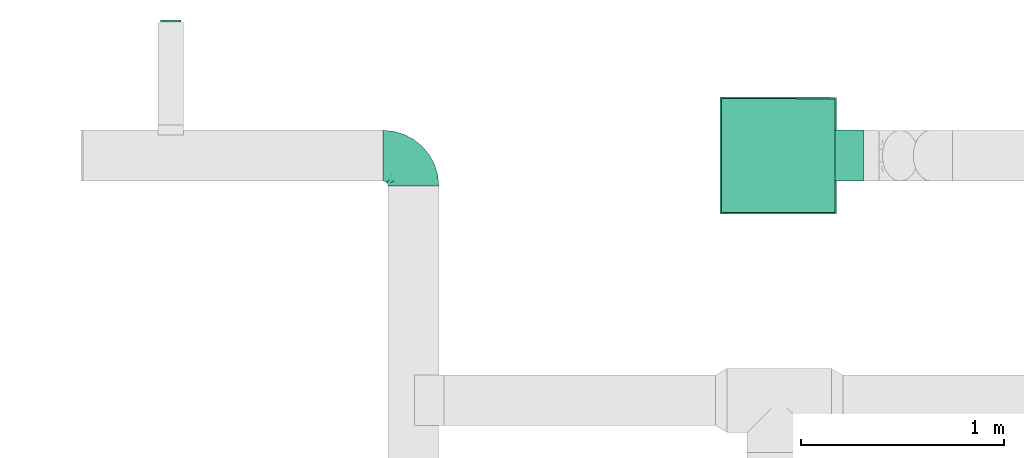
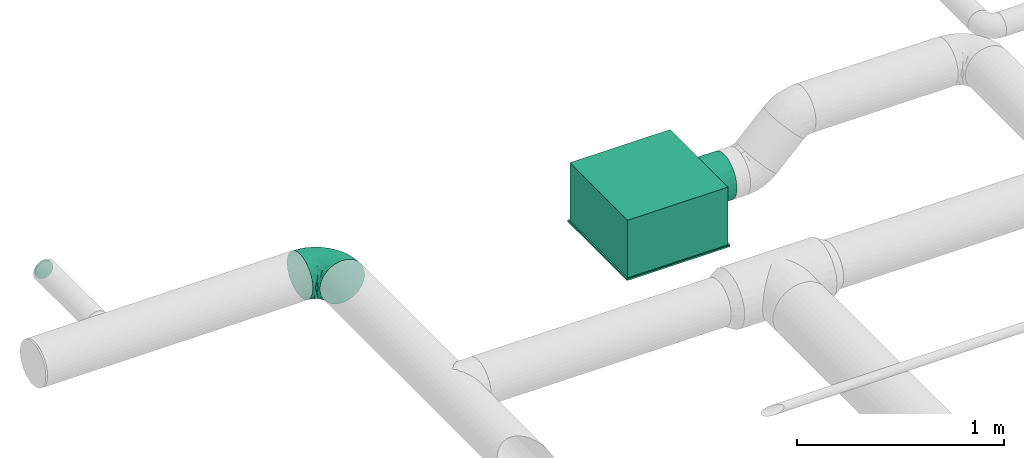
# One storey, part 37 of 63: 2 flow terminals, 1 flow fitting.
"""IFC2X3 building model written with IfcOpenShell, lengths in millimetres."""

from ifc_helpers import new_model, entity, si_unit, converted_unit, derived_unit, direction, frame, origin_with_axes, place, context, subcontext, project, spatial, open_shell, surface_model, source, transform, mapped, type_object, element, save


model = new_model("IFC2X3")

# Units and contexts
model_context = context("Model", 3, precision=0.01, world=frame((0.0, 4.29681676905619e-09, 0.0)), true_north=direction((4.01073788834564e-13, 1.0)))
plan_context = context("Plan", 3, precision=0.01, world=frame((0.0, 4.29681676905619e-09, 0.0)), true_north=direction((4.01073788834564e-13, 1.0)))
body_context = subcontext(model_context, "Body", "Model", "MODEL_VIEW")
ifc_project = project(units=[converted_unit("PLANEANGLEUNIT", "DEGREE", entity("IfcPositiveLengthMeasure", 0.0174532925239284), si_unit("PLANEANGLEUNIT", "RADIAN"), dimensions=[0, 0, 0, 0, 0, 0, 0]), si_unit("AREAUNIT", "SQUARE_METRE"), si_unit("LENGTHUNIT", "METRE", prefix="MILLI"), si_unit("MASSUNIT", "GRAM", prefix="KILO"), si_unit("POWERUNIT", "WATT"), si_unit("PRESSUREUNIT", "PASCAL"), si_unit("FORCEUNIT", "NEWTON", prefix="KILO"), si_unit("ELECTRICVOLTAGEUNIT", "VOLT"), si_unit("ELECTRICCURRENTUNIT", "AMPERE"), si_unit("THERMODYNAMICTEMPERATUREUNIT", "DEGREE_CELSIUS"), si_unit("TIMEUNIT", "SECOND"), si_unit("VOLUMEUNIT", "CUBIC_METRE"), derived_unit("LINEARVELOCITYUNIT", [(si_unit("LENGTHUNIT", "METRE"), 1), (si_unit("TIMEUNIT", "SECOND"), -1)]), derived_unit("VOLUMETRICFLOWRATEUNIT", [(si_unit("VOLUMEUNIT", "CUBIC_METRE"), 1), (si_unit("TIMEUNIT", "SECOND"), -1)]), derived_unit("THERMALTRANSMITTANCEUNIT", [(si_unit("POWERUNIT", "WATT"), 1), (si_unit("THERMODYNAMICTEMPERATUREUNIT", "KELVIN"), -1), (si_unit("AREAUNIT", "SQUARE_METRE"), -1)]), derived_unit("SOUNDPRESSUREUNIT", [(si_unit("PRESSUREUNIT", "PASCAL"), 1)])], contexts=[model_context, plan_context])

# Site, building, storey
site_placement = place(None, frame((0.0, -4.29681676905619e-09, 0.0), z_axis=(0.0, 0.0, 1.0), x_axis=(1.0, 0.0, 0.0)))
site = spatial("IfcSite", under=ifc_project, at=site_placement, CompositionType="ELEMENT")
building_placement = place(site_placement, frame((0.0, 4.29681676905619e-09, 0.0), z_axis=(0.0, 0.0, 1.0), x_axis=(1.0, 0.0, 0.0)))
building = spatial("IfcBuilding", under=site, at=building_placement, Name="mc-building", CompositionType="ELEMENT")
storey_placement = place(building_placement, frame((0.0, 0.0, 210900.0), z_axis=(0.0, 0.0, 1.0), x_axis=(1.0, 0.0, 0.0)))
storey = spatial("IfcBuildingStorey", under=building, at=storey_placement, Name="Nivå F", CompositionType="ELEMENT", Elevation=210900.0)

# Flow fitting
duct_fitting_type = type_object("IfcDuctFittingType", Name="magicirc_elbow_short_001", PredefinedType="BEND")
shared_shape_1 = source(origin_with_axes(), body_context, "Body", "SurfaceModel", [
    surface_model("IfcShellBasedSurfaceModel", [(-149.99602, 0.0, -125.0), (-149.99602, -32.35238, -120.74073), (-149.99602, 32.35238, -120.74073), (-149.99602, 62.5, -108.25318), (-149.99602, 88.38835, -88.38835), (-149.99602, 108.25318, -62.5), (-149.99602, 120.74073, -32.35238), (-149.99602, -62.5, -108.25318), (-149.99602, -88.38835, -88.38835), (-149.99602, -125.0, 0.0), (-149.99602, -108.25318, -62.5), (-149.99602, -120.74073, -32.35238), (-149.99602, 125.0, 0.0), (-149.99602, -120.74073, 32.35238), (-149.99602, 120.74073, 32.35238), (-149.99602, 108.25318, 62.5), (-149.99602, 32.35238, 120.74073), (-149.99602, 62.5, 108.25318), (-149.99602, 88.38835, 88.38835), (-149.99602, -88.38835, 88.38835), (-149.99602, -108.25318, 62.5), (-149.99602, -32.35238, 120.74073), (-149.99602, 0.0, 125.0), (-149.99602, -62.5, 108.25318), (-32.3484, 149.99688, -120.74073), (88.39232, 149.99368, -88.38835), (0.00398, 149.99602, -125.0), (-108.2492, 149.99889, -62.5), (-62.49602, 149.99768, -108.25318), (-32.3484, 149.99688, 120.74073), (-88.38437, 149.99837, -88.38835), (88.39232, 149.99368, 88.38835), (32.35636, 149.99517, -120.74073), (62.50398, 149.99437, -108.25318), (120.7447, 149.99282, -32.35238), (108.25715, 149.99315, -62.5), (125.00398, 149.99271, 0.0), (120.7447, 149.99282, 32.35238), (-124.99602, 149.99934, 0.0), (-120.73675, 149.99922, -32.35238), (-120.73675, 149.99922, 32.35238), (-108.2492, 149.99889, 62.5), (-88.38437, 149.99837, 88.38835), (-62.49602, 149.99768, 108.25318), (108.25715, 149.99315, 62.5), (62.50398, 149.99437, 108.25318), (0.00398, 149.99602, 125.0), (32.35636, 149.99517, 120.74073), (3.44122, -49.56921, 72.62816), (-18.36221, -48.37198, 88.70226), (-18.83183, -66.65068, 70.4414), (-111.90035, -117.21341, 35.289), (-118.94643, -121.94193, 0.0), (25.87177, 108.54983, 121.17483), (-75.77196, -90.32163, 72.9255), (-74.87201, -74.03384, 90.43435), (-106.1789, -83.07979, 89.59727), (-96.34708, -119.71613, 0.0), (-46.47457, 70.62082, 123.46206), (-76.11573, 76.11774, 116.41858), (-69.40394, 48.88136, 123.27514), (-124.48909, -102.85847, 69.13394), (58.21195, -16.89617, 44.41669), (37.6858, -37.68681, 47.97819), (52.73774, -32.74924, 22.57979), (-124.77405, -54.06966, 111.94261), (-90.65213, -57.43352, 106.30727), (32.14658, -52.27069, 26.33862), (-0.28014, -75.281, 33.26374), (23.61964, -61.5563, 0.0), (-95.68662, 131.65336, 83.88249), (-69.77513, 120.79953, 106.99523), (-67.09325, -108.40687, 29.86554), (-70.55342, -111.89185, 0.0), (-44.75976, -104.06757, 0.0), (-59.72485, 94.86087, 116.91667), (-108.55054, -25.86889, 121.17484), (54.07297, 124.77261, 111.94261), (-27.02453, -92.24501, 28.65992), (-114.99916, 7.32104, 124.96176), (14.59713, -56.28266, 51.49457), (-29.53152, 7.28312, 119.47219), (-3.38843, -9.52546, 105.74147), (0.96821, 29.12189, 117.22566), (-136.08631, 114.55349, 55.66389), (-123.43017, 95.73575, 87.17851), (-119.07104, 119.07419, 65.82381), (-129.08803, 129.09145, 33.48606), (-137.49621, 128.34925, 0.0), (-121.40764, 69.81751, 106.84771), (-149.99602, 47.42619, 114.49695), (-128.63173, 33.72663, 120.8926), (-27.57829, -83.17238, 52.686), (-47.99182, -78.87423, 74.22596), (-54.84155, -96.1346, 51.52316), (103.28828, 90.84958, 59.18714), (90.74559, 74.5486, 71.84764), (96.43656, 48.90499, 45.65814), (-41.12464, 38.26574, 124.85568), (102.86178, 124.48636, 69.13394), (83.08261, 106.17669, 89.59727), (-94.00515, 107.98079, 96.05038), (74.96218, 76.42575, 90.06035), (117.21637, 111.89724, 35.289), (121.94509, 118.94319, 0.0), (-47.29846, -61.15916, 91.82884), (78.8755, 47.98971, 74.22595), (76.93842, 15.75982, 52.0104), (-101.88217, 84.02195, 104.6632), (110.189, 71.47544, 28.20523), (111.89372, 70.55045, 0.0), (55.39788, 7.24202, 74.82239), (24.63638, -24.60088, 78.90896), (57.43592, 90.6506, 106.30727), (30.02266, 57.29751, 113.44711), (-128.34561, 137.49962, 0.0), (-73.97076, 6.61117, 124.3937), (-33.51931, 127.65725, 120.99197), (-7.19673, 114.11074, 124.96953), (-18.4278, 93.19828, 124.82063), (15.00099, 81.70786, 121.69085), (-109.70188, 132.72949, 65.99178), (-81.51823, -16.35139, 121.37267), (-56.48482, -29.68298, 113.41299), (55.20451, 44.93862, 95.60097), (-90.85232, -103.28587, 59.18714), (-26.42813, -29.68456, 104.83869), (-7.20803, 68.77464, 124.18233), (30.67519, 15.69497, 99.90836), (-47.42221, 149.99728, 114.49695), (-107.88439, 38.92196, 121.04177), (-96.14748, 61.71393, 115.99389), (-96.30893, 19.15355, 124.70603), (70.72222, -10.51701, 22.73889), (104.06876, 44.757, 0.0), (102.02262, 45.45541, 23.12466), (89.00178, 19.0756, 24.83039), (119.71868, 96.3439, 0.0), (-20.98812, -91.36162, 0.0), (78.65559, -2.7856, 0.0), (91.36217, 20.9857, 0.0), (2.78352, -78.65566, 0.0), (44.45576, -44.45694, 0.0), (61.55568, -23.62127, 0.0), (-38.84546, 105.96683, 121.2357), (-120.7977, 69.77833, -106.99523), (54.07297, 124.77262, -111.94261), (-90.65213, -57.43352, -106.30727), (-124.77405, -54.06966, -111.94261), (-108.55054, -25.86889, -121.17484), (-18.36222, -48.37198, -88.70226), (-18.83183, -66.65067, -70.4414), (-47.29846, -61.15917, -91.82884), (-96.30893, 19.15354, -124.70603), (-73.97076, 6.61117, -124.3937), (-114.99916, 7.32104, -124.96176), (15.00099, 81.70788, -121.69085), (25.87177, 108.54985, -121.17483), (30.02266, 57.29753, -113.44712), (-129.08803, 129.09145, -33.48606), (-95.73247, 123.43271, -87.17851), (-84.01924, 101.88439, -104.66321), (-107.97831, 94.00801, -96.05038), (-0.28014, -75.281, -33.26373), (-131.65082, 95.69012, -83.88248), (-132.72658, 109.7054, -65.99178), (-107.88438, 38.92196, -121.04177), (-128.63173, 33.72663, -120.8926), (-119.07104, 119.07419, -65.82381), (-111.90035, -117.21341, -35.289), (-48.07089, 68.7252, -123.44781), (-7.20802, 68.77464, -124.18233), (-41.12463, 38.26572, -124.85568), (-76.11573, 76.11774, -116.41858), (-69.69248, 48.66858, -123.27297), (-95.37882, 59.83869, -116.77793), (-106.1789, -83.07979, -89.59727), (-3.38843, -9.52546, -105.74147), (24.63637, -24.60089, -78.90896), (-54.84155, -96.1346, -51.52316), (-75.77196, -90.32163, -72.9255), (-47.99181, -78.87423, -74.22596), (-124.48909, -102.85847, -69.13394), (30.67522, 15.69497, -99.90835), (0.96822, 29.1219, -117.22565), (-69.81429, 121.4095, -106.84771), (-27.02453, -92.24501, -28.65992), (-67.09325, -108.40687, -29.86554), (78.8755, 47.98971, -74.22596), (96.43655, 48.90503, -45.6582), (76.93845, 15.75984, -52.01034), (37.6858, -37.68681, -47.97819), (58.21195, -16.89617, -44.41669), (52.73774, -32.74924, -22.57979), (-114.54988, 136.08934, -55.66389), (117.21637, 111.89724, -35.289), (-7.19673, 114.11072, -124.96953), (-27.57829, -83.17238, -52.686), (-47.42221, 149.99728, -114.49695), (-33.5193, 127.65725, -120.99197), (32.14658, -52.27069, -26.33862), (14.59713, -56.28266, -51.49457), (83.08261, 106.17669, -89.59727), (102.86178, 124.48636, -69.13394), (89.00183, 19.07568, -24.83034), (57.43592, 90.6506, -106.30727), (110.189, 71.47542, -28.20523), (102.0226, 45.45537, -23.12467), (-90.85232, -103.28587, -59.18714), (90.01388, 76.64378, -73.68908), (73.67387, 74.26977, -90.57851), (-29.5315, 7.28312, -119.47218), (-56.48482, -29.68298, -113.41299), (-74.87201, -74.03384, -90.43435), (-81.51823, -16.35139, -121.37267), (-26.42813, -29.68456, -104.83869), (103.28828, 90.84958, -59.18714), (-18.4278, 93.19827, -124.82063), (-38.84546, 105.96682, -121.2357), (55.20451, 44.93866, -95.60098), (-149.99602, 47.42619, -114.49695), (55.39793, 7.24207, -74.82238), (-61.71138, 96.14911, -115.99389), (3.44122, -49.5692, -72.62817), (70.72222, -10.51701, -22.73889)], [open_shell([[[0, 1, 2]], [[3, 2, 4]], [[1, 5, 2]], [[4, 2, 5]], [[5, 1, 6]], [[7, 8, 1]], [[9, 1, 8]], [[10, 11, 8]], [[9, 8, 11]], [[9, 6, 1]], [[9, 12, 6]], [[12, 13, 14]], [[15, 14, 16]], [[16, 17, 18]], [[15, 16, 18]], [[16, 14, 19]], [[20, 19, 13]], [[19, 14, 13]], [[21, 22, 23]], [[19, 23, 22]], [[19, 22, 16]], [[9, 13, 12]], [[24, 25, 26]], [[27, 24, 28]], [[24, 27, 29]], [[27, 28, 30]], [[24, 31, 25]], [[32, 25, 33]], [[32, 26, 25]], [[25, 34, 35]], [[36, 34, 37]], [[34, 25, 37]], [[38, 27, 39]], [[27, 40, 29]], [[29, 40, 41]], [[42, 43, 29]], [[42, 29, 41]], [[29, 31, 24]], [[37, 31, 44]], [[25, 31, 37]], [[45, 46, 47]], [[46, 45, 31]], [[29, 46, 31]], [[40, 27, 38]], [[48, 49, 50]], [[51, 13, 52]], [[53, 47, 46]], [[54, 55, 56]], [[52, 57, 51]], [[58, 59, 60]], [[20, 61, 19]], [[62, 63, 64]], [[65, 56, 66]], [[67, 68, 69]], [[42, 70, 71]], [[72, 73, 74]], [[59, 58, 75]], [[21, 76, 22]], [[77, 45, 47]], [[23, 19, 56]], [[72, 74, 78]], [[79, 16, 22]], [[76, 21, 65]], [[67, 80, 68]], [[81, 82, 83]], [[84, 85, 86]], [[87, 12, 14]], [[12, 87, 88]], [[18, 17, 89]], [[51, 20, 13]], [[18, 89, 85]], [[17, 90, 91]], [[84, 14, 15]], [[90, 16, 91]], [[92, 93, 94]], [[41, 70, 42]], [[95, 96, 97]], [[83, 98, 81]], [[44, 31, 99]], [[100, 31, 45]], [[86, 85, 101]], [[102, 96, 100]], [[103, 104, 37]], [[66, 55, 105]], [[77, 100, 45]], [[103, 37, 44]], [[97, 106, 107]], [[85, 15, 18]], [[108, 85, 89]], [[85, 84, 15]], [[103, 109, 110]], [[111, 112, 62]], [[113, 53, 114]], [[88, 87, 115]], [[60, 116, 98]], [[115, 87, 38]], [[85, 108, 101]], [[40, 38, 87]], [[71, 117, 43]], [[118, 119, 120]], [[121, 40, 87]], [[70, 121, 101]], [[116, 122, 123]], [[113, 114, 124]], [[118, 53, 46]], [[43, 42, 71]], [[77, 53, 113]], [[72, 78, 94]], [[54, 125, 94]], [[21, 23, 65]], [[123, 76, 66]], [[61, 56, 19]], [[76, 122, 79]], [[93, 105, 55]], [[123, 126, 81]], [[102, 100, 113]], [[99, 100, 95]], [[46, 29, 118]], [[114, 120, 127]], [[127, 83, 114]], [[114, 83, 128]], [[75, 101, 59]], [[117, 29, 129]], [[106, 111, 107]], [[124, 111, 106]], [[130, 89, 17]], [[108, 131, 59]], [[118, 29, 117]], [[118, 117, 119]], [[51, 57, 73]], [[61, 51, 125]], [[99, 103, 44]], [[109, 95, 97]], [[76, 79, 22]], [[132, 79, 116]], [[83, 127, 98]], [[128, 83, 82]], [[127, 119, 58]], [[59, 131, 60]], [[128, 82, 112]], [[124, 114, 128]], [[49, 112, 82]], [[63, 80, 67]], [[126, 49, 82]], [[93, 92, 50]], [[111, 124, 128]], [[124, 106, 102]], [[112, 111, 128]], [[111, 62, 107]], [[98, 116, 81]], [[123, 81, 116]], [[133, 62, 64]], [[134, 109, 135]], [[136, 97, 107]], [[97, 135, 109]], [[110, 137, 103]], [[103, 95, 109]], [[78, 74, 138]], [[73, 72, 51]], [[51, 72, 125]], [[68, 80, 50]], [[72, 94, 125]], [[92, 94, 78]], [[54, 94, 93]], [[133, 107, 62]], [[136, 139, 140]], [[68, 92, 78]], [[50, 49, 105]], [[78, 141, 68]], [[68, 141, 69]], [[69, 142, 67]], [[64, 67, 142]], [[67, 64, 63]], [[68, 50, 92]], [[48, 50, 80]], [[63, 48, 80]], [[112, 49, 48]], [[133, 143, 139]], [[143, 133, 64]], [[139, 136, 133]], [[107, 133, 136]], [[64, 142, 143]], [[62, 112, 63]], [[48, 63, 112]], [[55, 54, 93]], [[56, 125, 54]], [[93, 50, 105]], [[56, 55, 66]], [[126, 105, 49]], [[66, 105, 123]], [[131, 108, 89]], [[101, 108, 59]], [[89, 130, 131]], [[60, 98, 58]], [[131, 130, 60]], [[60, 130, 132]], [[127, 58, 98]], [[75, 58, 144]], [[144, 71, 75]], [[101, 75, 71]], [[121, 70, 41]], [[135, 140, 134]], [[71, 70, 101]], [[40, 121, 41]], [[101, 121, 86]], [[84, 87, 14]], [[121, 87, 86]], [[13, 9, 52]], [[104, 103, 137]], [[104, 36, 37]], [[87, 84, 86]], [[51, 61, 20]], [[56, 61, 125]], [[56, 65, 23]], [[76, 65, 66]], [[100, 99, 31]], [[103, 99, 95]], [[53, 77, 47]], [[100, 77, 113]], [[117, 71, 144]], [[43, 117, 129]], [[117, 144, 119]], [[91, 130, 17]], [[16, 79, 91]], [[132, 91, 79]], [[79, 122, 116]], [[76, 123, 122]], [[124, 102, 113]], [[96, 102, 106]], [[97, 96, 106]], [[100, 96, 95]], [[114, 53, 120]], [[118, 120, 53]], [[58, 119, 144]], [[120, 119, 127]], [[60, 132, 116]], [[91, 132, 130]], [[81, 126, 82]], [[105, 126, 123]], [[97, 136, 135]], [[140, 135, 136]], [[109, 134, 110]], [[141, 78, 138]], [[4, 145, 3]], [[32, 33, 146]], [[147, 148, 149]], [[150, 151, 152]], [[153, 154, 155]], [[156, 157, 158]], [[88, 159, 12]], [[160, 161, 162]], [[159, 6, 12]], [[141, 163, 69]], [[162, 164, 165]], [[3, 166, 167]], [[168, 160, 162]], [[159, 165, 6]], [[10, 169, 11]], [[170, 171, 172]], [[169, 52, 11]], [[173, 174, 175]], [[7, 148, 176]], [[177, 178, 150]], [[179, 180, 181]], [[149, 1, 0]], [[34, 36, 104]], [[10, 8, 182]], [[183, 177, 184]], [[161, 160, 185]], [[186, 74, 187]], [[8, 7, 176]], [[188, 189, 190]], [[191, 192, 193]], [[159, 88, 115]], [[155, 149, 0]], [[38, 39, 159]], [[174, 173, 170]], [[194, 39, 27]], [[195, 35, 34]], [[4, 164, 145]], [[194, 160, 168]], [[24, 26, 196]], [[148, 7, 1]], [[155, 0, 2]], [[157, 196, 26]], [[163, 186, 197]], [[198, 24, 199]], [[200, 163, 201]], [[185, 160, 30]], [[160, 27, 30]], [[202, 33, 25]], [[35, 203, 25]], [[190, 189, 204]], [[184, 172, 171]], [[193, 142, 200]], [[32, 146, 157]], [[202, 205, 146]], [[206, 134, 207]], [[187, 169, 208]], [[104, 137, 195]], [[34, 104, 195]], [[30, 28, 185]], [[186, 141, 138]], [[32, 157, 26]], [[202, 209, 210]], [[211, 184, 177]], [[147, 149, 212]], [[180, 213, 181]], [[38, 159, 115]], [[182, 176, 208]], [[5, 164, 4]], [[212, 214, 154]], [[211, 212, 154]], [[215, 177, 150]], [[203, 202, 25]], [[209, 202, 216]], [[158, 157, 205]], [[217, 218, 199]], [[205, 210, 219]], [[184, 171, 158]], [[175, 162, 173]], [[220, 3, 167]], [[183, 178, 177]], [[190, 192, 221]], [[185, 28, 199]], [[161, 222, 173]], [[196, 157, 156]], [[28, 198, 199]], [[182, 169, 10]], [[169, 73, 57]], [[195, 110, 206]], [[203, 195, 216]], [[2, 220, 167]], [[155, 154, 214]], [[183, 184, 158]], [[184, 211, 172]], [[154, 153, 174]], [[173, 222, 170]], [[158, 219, 183]], [[183, 219, 221]], [[178, 183, 221]], [[197, 181, 151]], [[151, 223, 201]], [[213, 152, 181]], [[205, 219, 158]], [[188, 190, 221]], [[188, 221, 219]], [[178, 221, 192]], [[211, 177, 215]], [[154, 172, 211]], [[209, 189, 188]], [[190, 204, 224]], [[206, 189, 216]], [[207, 140, 204]], [[216, 195, 206]], [[169, 187, 73]], [[74, 73, 187]], [[187, 179, 186]], [[179, 187, 208]], [[186, 179, 197]], [[180, 179, 208]], [[197, 179, 181]], [[207, 189, 206]], [[208, 176, 180]], [[181, 152, 151]], [[197, 151, 163]], [[69, 163, 200]], [[141, 186, 163]], [[69, 200, 142]], [[191, 200, 201]], [[200, 191, 193]], [[223, 151, 150]], [[163, 151, 201]], [[150, 178, 223]], [[191, 223, 178]], [[223, 191, 201]], [[178, 192, 191]], [[224, 193, 192]], [[224, 143, 193]], [[190, 224, 192]], [[204, 139, 224]], [[143, 224, 139]], [[143, 142, 193]], [[213, 176, 147]], [[176, 213, 180]], [[147, 212, 152]], [[147, 152, 213]], [[215, 152, 212]], [[222, 161, 185]], [[162, 161, 173]], [[185, 218, 222]], [[170, 172, 174]], [[222, 218, 170]], [[170, 218, 217]], [[154, 174, 172]], [[175, 166, 145]], [[166, 175, 174]], [[162, 175, 145]], [[165, 164, 5]], [[140, 139, 204]], [[145, 164, 162]], [[6, 165, 5]], [[162, 165, 168]], [[194, 159, 39]], [[165, 159, 168]], [[52, 169, 57]], [[52, 9, 11]], [[160, 194, 27]], [[159, 194, 168]], [[176, 182, 8]], [[169, 182, 208]], [[149, 148, 1]], [[176, 148, 147]], [[195, 203, 35]], [[202, 203, 216]], [[202, 146, 33]], [[157, 146, 205]], [[218, 185, 199]], [[24, 196, 199]], [[217, 199, 196]], [[166, 3, 145]], [[153, 167, 166]], [[155, 2, 167]], [[212, 149, 214]], [[155, 214, 149]], [[189, 209, 216]], [[210, 209, 188]], [[219, 210, 188]], [[202, 210, 205]], [[158, 171, 156]], [[156, 171, 217]], [[156, 217, 196]], [[170, 217, 171]], [[167, 153, 155]], [[174, 153, 166]], [[152, 215, 150]], [[211, 215, 212]], [[140, 207, 134]], [[204, 189, 207]], [[110, 195, 137]], [[110, 134, 206]], [[138, 74, 186]]])]),
])
flow_fitting_placement = place(storey_placement, frame((523302.64941, 460995.76875, 4200.0), z_axis=(0.0, 0.0, 1.0), x_axis=(-2.69999999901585e-05, 0.9999999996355, 0.0)))
element("IfcFlowFitting", 1, at=flow_fitting_placement, inside=storey, type_object=duct_fitting_type, Name="magicirc_elbow_short_001", context=body_context, shape_type="MappedRepresentation", body=[
    mapped(shared_shape_1, transform((0.0, 0.0, 0.0), scale=1.0)),
])

# Flow terminals
air_terminal_type_1 = type_object("IfcAirTerminalType", Name="NS19-H-S-2-250 - 4-way", PredefinedType="NOTDEFINED")
shared_shape_2 = source(origin_with_axes(), body_context, "Body", "SurfaceModel", [
    surface_model("IfcShellBasedSurfaceModel", [(-287.5, 287.5, 0.0), (-287.5, -287.5, 0.0), (287.5, -287.5, 0.0), (287.5, 287.5, 0.0), (287.5, 287.5, -10.0), (287.5, -287.5, -10.0), (-287.5, -287.5, -10.0), (-287.5, 287.5, -10.0), (-280.0, 280.0, 340.0), (-280.0, -280.0, 340.0), (280.0, -280.0, 340.0), (280.0, 280.0, 340.0), (280.0, 280.0, 0.0), (280.0, -280.0, 0.0), (-280.0, -280.0, 0.0), (-280.0, 280.0, 0.0), (-280.0, 62.5, 81.74683), (-280.0, 88.38835, 101.61165), (-280.0, 62.4, 81.92003), (-280.0, 32.30062, 69.45246), (-280.0, 0.0, 65.2), (-280.0, 32.35238, 69.25927), (-280.0, 0.0, 65.0), (-280.0, 88.24693, 101.75307), (-280.0, 120.74073, 157.64763), (-280.0, 124.8, 189.99999), (-280.0, 120.54755, 157.69939), (-280.0, 125.0, 189.99999), (-280.0, 108.25318, 127.5), (-280.0, 108.07997, 127.6), (-280.0, -32.30062, 69.45246), (-280.0, -32.35238, 69.25927), (-280.0, -62.4, 81.92003), (-280.0, -88.38835, 101.61165), (-280.0, -62.5, 81.74683), (-280.0, -88.24693, 101.75307), (-280.0, -108.07997, 127.6), (-280.0, -108.25318, 127.5), (-280.0, -120.54755, 157.69939), (-280.0, -120.74073, 157.64763), (-280.0, -124.8, 189.99999), (-280.0, -125.0, 189.99999), (-280.0, 120.74073, 222.35238), (-280.0, 120.54755, 222.30062), (-280.0, 108.07997, 252.4), (-280.0, 108.25318, 252.49999), (-280.0, 88.24693, 278.24693), (-280.0, 88.38835, 278.38835), (-280.0, 62.5, 298.25318), (-280.0, 62.4, 298.07997), (-280.0, 32.30062, 310.54754), (-280.0, 32.35238, 310.74073), (-280.0, 0.0, 314.80001), (-280.0, 0.0, 315.0), (-280.0, -108.25318, 252.49999), (-280.0, -108.07997, 252.4), (-280.0, -88.38835, 278.38835), (-280.0, -88.24693, 278.24693), (-280.0, -120.74073, 222.35238), (-280.0, -120.54755, 222.30062), (-280.0, -32.30062, 310.54754), (-280.0, -32.35238, 310.74073), (-280.0, -62.4, 298.07997), (-280.0, -62.5, 298.25318), (-420.00002, 62.5, 298.25318), (-420.00002, 88.38835, 278.38835), (-420.00002, 62.4, 298.07997), (-420.00002, 32.30062, 310.54754), (-420.00002, 0.0, 314.80001), (-420.00002, 32.35238, 310.74073), (-420.00002, 0.0, 315.0), (-420.00002, 88.24693, 278.24693), (-420.00002, 120.74073, 222.35238), (-420.00002, 124.8, 189.99999), (-420.00002, 120.54755, 222.30062), (-420.00002, 125.0, 189.99999), (-420.00002, 108.25318, 252.49999), (-420.00002, 108.07997, 252.4), (-420.00002, -32.30062, 310.54754), (-420.00002, -32.35238, 310.74073), (-420.00002, -62.4, 298.07997), (-420.00002, -88.38835, 278.38835), (-420.00002, -62.5, 298.25318), (-420.00002, -88.24693, 278.24693), (-420.00002, -108.07997, 252.4), (-420.00002, -108.25318, 252.49999), (-420.00002, -120.54755, 222.30062), (-420.00002, -120.74073, 222.35238), (-420.00002, -124.8, 189.99999), (-420.00002, -125.0, 189.99999), (-420.00002, 120.74073, 157.64763), (-420.00002, 120.54755, 157.69939), (-420.00002, 108.07997, 127.6), (-420.00002, 108.25318, 127.5), (-420.00002, 88.24693, 101.75307), (-420.00002, 88.38835, 101.61165), (-420.00002, 62.5, 81.74683), (-420.00002, 62.4, 81.92003), (-420.00002, 32.30062, 69.45246), (-420.00002, 32.35238, 69.25927), (-420.00002, 0.0, 65.2), (-420.00002, 0.0, 65.0), (-420.00002, -108.25318, 127.5), (-420.00002, -108.07997, 127.6), (-420.00002, -88.38835, 101.61165), (-420.00002, -88.24693, 101.75307), (-420.00002, -120.74073, 157.64763), (-420.00002, -120.54755, 157.69939), (-420.00002, -32.30062, 69.45246), (-420.00002, -32.35238, 69.25927), (-420.00002, -62.4, 81.92003), (-420.00002, -62.5, 81.74683)], [open_shell([[[0, 1, 2]], [[2, 3, 0]], [[4, 5, 6]], [[6, 7, 4]], [[2, 1, 6]], [[6, 5, 2]], [[3, 2, 5]], [[5, 4, 3]], [[0, 3, 4]], [[4, 7, 0]], [[1, 0, 7]], [[7, 6, 1]], [[8, 9, 10]], [[10, 11, 8]], [[12, 13, 14]], [[14, 15, 12]], [[10, 9, 14]], [[14, 13, 10]], [[11, 10, 13]], [[13, 12, 11]], [[8, 11, 12]], [[12, 15, 8]], [[9, 8, 15]], [[15, 14, 9]], [[16, 17, 18]], [[16, 18, 19]], [[20, 21, 19]], [[21, 20, 22]], [[19, 21, 16]], [[18, 17, 23]], [[24, 25, 26]], [[25, 24, 27]], [[24, 26, 28]], [[23, 28, 29]], [[28, 23, 17]], [[29, 28, 26]], [[22, 30, 31]], [[31, 30, 32]], [[33, 34, 35]], [[32, 34, 31]], [[32, 35, 34]], [[22, 20, 30]], [[36, 37, 33]], [[37, 36, 38]], [[36, 33, 35]], [[39, 38, 40]], [[38, 39, 37]], [[39, 40, 41]], [[27, 42, 43]], [[43, 42, 44]], [[44, 45, 46]], [[45, 44, 42]], [[46, 45, 47]], [[47, 48, 49]], [[49, 48, 50]], [[50, 51, 52]], [[51, 50, 48]], [[52, 51, 53]], [[49, 46, 47]], [[54, 55, 56]], [[56, 55, 57]], [[55, 54, 58]], [[41, 59, 58]], [[58, 59, 55]], [[41, 40, 59]], [[60, 53, 61]], [[60, 61, 62]], [[57, 63, 56]], [[57, 62, 63]], [[63, 62, 61]], [[52, 53, 60]], [[43, 25, 27]], [[64, 65, 66]], [[64, 66, 67]], [[68, 69, 67]], [[69, 68, 70]], [[67, 69, 64]], [[66, 65, 71]], [[72, 73, 74]], [[73, 72, 75]], [[72, 74, 76]], [[71, 76, 77]], [[76, 71, 65]], [[77, 76, 74]], [[70, 78, 79]], [[79, 78, 80]], [[81, 82, 83]], [[80, 82, 79]], [[80, 83, 82]], [[70, 68, 78]], [[84, 85, 81]], [[85, 84, 86]], [[84, 81, 83]], [[87, 86, 88]], [[86, 87, 85]], [[87, 88, 89]], [[75, 90, 91]], [[91, 90, 92]], [[92, 93, 94]], [[93, 92, 90]], [[94, 93, 95]], [[95, 96, 97]], [[97, 96, 98]], [[98, 99, 100]], [[99, 98, 96]], [[100, 99, 101]], [[97, 94, 95]], [[102, 103, 104]], [[104, 103, 105]], [[103, 102, 106]], [[89, 107, 106]], [[106, 107, 103]], [[89, 88, 107]], [[108, 101, 109]], [[108, 109, 110]], [[105, 111, 104]], [[105, 110, 111]], [[111, 110, 109]], [[100, 101, 108]], [[91, 73, 75]], [[39, 106, 102]], [[104, 37, 102]], [[34, 111, 109]], [[104, 111, 33]], [[31, 109, 101]], [[106, 41, 89]], [[106, 39, 41]], [[102, 37, 39]], [[104, 33, 37]], [[34, 33, 111]], [[109, 31, 34]], [[101, 22, 31]], [[21, 99, 96]], [[95, 16, 96]], [[28, 93, 90]], [[95, 93, 17]], [[24, 90, 75]], [[99, 21, 22]], [[96, 16, 21]], [[95, 17, 16]], [[93, 28, 17]], [[24, 28, 90]], [[75, 27, 24]], [[99, 22, 101]], [[42, 75, 72]], [[45, 72, 76]], [[48, 64, 69]], [[51, 69, 70]], [[72, 45, 42]], [[42, 27, 75]], [[65, 47, 45]], [[47, 65, 48]], [[48, 65, 64]], [[69, 51, 48]], [[65, 45, 76]], [[70, 53, 51]], [[61, 79, 82]], [[81, 63, 82]], [[54, 85, 87]], [[81, 85, 56]], [[58, 87, 89]], [[79, 61, 53]], [[82, 63, 61]], [[81, 56, 63]], [[85, 54, 56]], [[58, 54, 87]], [[89, 41, 58]], [[79, 53, 70]], [[103, 107, 38]], [[103, 36, 105]], [[108, 110, 32]], [[35, 110, 105]], [[100, 108, 30]], [[88, 40, 107]], [[40, 38, 107]], [[38, 36, 103]], [[36, 35, 105]], [[110, 35, 32]], [[32, 30, 108]], [[30, 20, 100]], [[97, 98, 19]], [[97, 18, 94]], [[91, 92, 29]], [[23, 92, 94]], [[73, 91, 26]], [[20, 19, 98]], [[19, 18, 97]], [[18, 23, 94]], [[23, 29, 92]], [[91, 29, 26]], [[26, 25, 73]], [[100, 20, 98]], [[74, 73, 43]], [[77, 74, 44]], [[67, 66, 49]], [[68, 67, 50]], [[43, 44, 74]], [[73, 25, 43]], [[44, 46, 71]], [[49, 71, 46]], [[66, 71, 49]], [[49, 50, 67]], [[77, 44, 71]], [[50, 52, 68]], [[80, 78, 60]], [[80, 62, 83]], [[86, 84, 55]], [[57, 84, 83]], [[88, 86, 59]], [[52, 60, 78]], [[60, 62, 80]], [[62, 57, 83]], [[57, 55, 84]], [[86, 55, 59]], [[59, 40, 88]], [[68, 52, 78]]])]),
])
flow_terminal_1_placement = place(storey_placement, frame((525100.02329, 460995.95498, 3770.0), z_axis=(0.0, 0.0, 1.0), x_axis=(-0.999999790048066, 0.000647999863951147, 0.0)))
element("IfcFlowTerminal", 2, at=flow_terminal_1_placement, inside=storey, type_object=air_terminal_type_1, Name="NS19-H-S-2-250 - 4-way", context=body_context, shape_type="MappedRepresentation", body=[
    mapped(shared_shape_2, transform((0.0, 0.0, 0.0), scale=1.0)),
])
air_terminal_type_2 = type_object("IfcAirTerminalType", Name="NETTING-125", PredefinedType="NOTDEFINED")
shared_shape_3 = source(origin_with_axes(), body_context, "Body", "SurfaceModel", [
    surface_model("IfcShellBasedSurfaceModel", [(12.94095, -48.29629, 10.0), (25.0, -43.30127, 10.0), (35.35534, -35.35534, 10.0), (43.30127, -25.0, 10.0), (48.29629, -12.94095, 10.0), (0.0, -50.0, 10.0), (50.0, 0.0, 10.0), (-25.0, -43.30127, 10.0), (-12.94095, -48.29629, 10.0), (-35.35534, -35.35534, 10.0), (-48.29629, -12.94095, 10.0), (-43.30127, -25.0, 10.0), (-48.29629, 12.94095, 10.0), (48.29629, 12.94095, 10.0), (43.30127, 25.0, 10.0), (35.35534, 35.35534, 10.0), (12.94095, 48.29629, 10.0), (0.0, 50.0, 10.0), (25.0, 43.30127, 10.0), (-35.35534, 35.35534, 10.0), (-43.30127, 25.0, 10.0), (-50.0, 0.0, 10.0), (-12.94095, 48.29629, 10.0), (-25.0, 43.30127, 10.0), (48.29629, 12.94095, 0.0), (0.0, 50.0, 0.0), (12.94095, 48.29629, 0.0), (25.0, 43.30127, 0.0), (35.35534, 35.35534, 0.0), (43.30127, 25.0, 0.0), (-35.35534, 35.35534, 0.0), (-12.94095, 48.29629, 0.0), (-25.0, 43.30127, 0.0), (-48.29629, 12.94095, 0.0), (-43.30127, 25.0, 0.0), (-25.0, -43.30127, 0.0), (-48.29629, -12.94095, 0.0), (-50.0, 0.0, 0.0), (48.29629, -12.94095, 0.0), (12.94095, -48.29629, 0.0), (43.30127, -25.0, 0.0), (35.35534, -35.35534, 0.0), (25.0, -43.30127, 0.0), (-35.35534, -35.35534, 0.0), (-43.30127, -25.0, 0.0), (-12.94095, -48.29629, 0.0), (0.0, -50.0, 0.0), (50.0, 0.0, 0.0)], [open_shell([[[0, 1, 2]], [[0, 2, 3]], [[0, 4, 5]], [[4, 0, 3]], [[5, 4, 6]], [[5, 7, 8]], [[5, 6, 7]], [[9, 10, 11]], [[10, 9, 7]], [[7, 12, 10]], [[7, 6, 13]], [[13, 14, 15]], [[13, 15, 16]], [[16, 17, 13]], [[16, 15, 18]], [[13, 17, 19]], [[12, 19, 20]], [[21, 10, 12]], [[19, 22, 23]], [[7, 19, 12]], [[17, 22, 19]], [[7, 13, 19]], [[24, 25, 26]], [[24, 26, 27]], [[28, 29, 24]], [[28, 24, 27]], [[25, 24, 30]], [[31, 30, 32]], [[31, 25, 30]], [[30, 33, 34]], [[33, 30, 35]], [[36, 37, 33]], [[35, 30, 24]], [[24, 38, 35]], [[39, 38, 40]], [[41, 42, 39]], [[41, 39, 40]], [[35, 38, 39]], [[36, 43, 44]], [[43, 36, 35]], [[39, 45, 35]], [[36, 33, 35]], [[46, 45, 39]], [[38, 24, 47]], [[36, 10, 37]], [[44, 11, 36]], [[7, 43, 35]], [[44, 43, 9]], [[8, 35, 45]], [[36, 11, 10]], [[10, 21, 37]], [[8, 7, 35]], [[9, 43, 7]], [[9, 11, 44]], [[5, 8, 45]], [[45, 46, 5]], [[39, 0, 46]], [[42, 1, 39]], [[3, 41, 40]], [[42, 41, 2]], [[4, 40, 38]], [[42, 2, 1]], [[1, 0, 39]], [[6, 4, 38]], [[3, 40, 4]], [[3, 2, 41]], [[47, 6, 38]], [[46, 0, 5]], [[24, 13, 47]], [[29, 14, 24]], [[18, 28, 27]], [[29, 28, 15]], [[16, 27, 26]], [[24, 14, 13]], [[13, 6, 47]], [[16, 18, 27]], [[15, 28, 18]], [[15, 14, 29]], [[17, 16, 26]], [[26, 25, 17]], [[31, 22, 25]], [[32, 23, 31]], [[20, 30, 34]], [[32, 30, 19]], [[12, 34, 33]], [[32, 19, 23]], [[23, 22, 31]], [[21, 12, 33]], [[20, 34, 12]], [[20, 19, 30]], [[37, 21, 33]], [[25, 22, 17]]])]),
])
flow_terminal_2_placement = place(storey_placement, frame((522105.77614, 461654.04928, 4200.0), z_axis=(0.0, 1.0, 0.0), x_axis=(0.0, 0.0, -1.0)))
element("IfcFlowTerminal", 3, at=flow_terminal_2_placement, inside=storey, type_object=air_terminal_type_2, Name="NETTING-125", context=body_context, shape_type="MappedRepresentation", body=[
    mapped(shared_shape_3, transform((0.0, 0.0, 0.0), scale=1.0)),
])

save(model, "model.ifc")
